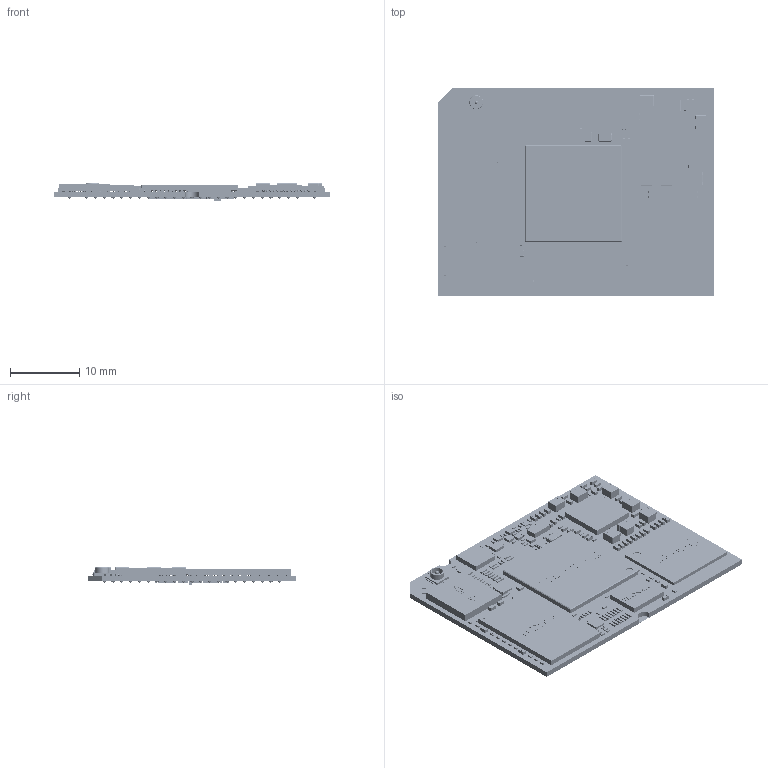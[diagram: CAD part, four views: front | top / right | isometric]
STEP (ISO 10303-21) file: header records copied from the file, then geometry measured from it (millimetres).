
FILE_DESCRIPTION(/* description */ ('PCB Design'),/* implementation_level */ '2;1');
FILE_NAME(/* name */ 'BRD_736-100-R01_2025-03-25',/* time_stamp */ '2025-03-25T11:05:06+01:00',/* author */ (''),/* organization */ (''),/* preprocessor_version */ 'ST-DEVELOPER v16',/* originating_system */ 'allegro_22.1S008',/* authorisation */ '');
FILE_SCHEMA (('AUTOMOTIVE_DESIGN { 1 0 10303 214 3 1 1 }'));
Products named in the file (142): BRD_736-100-R01_2025-03-25; 2025-03-26-06-52_BOARD_OUTLINE; 2025-03-26-06-52_EXTERNAL COPPER; 2025-03-26-06-52_TOP; PADS_2025-03-26-06-52_TOP; CIRCLE_2501; CIRCLE_3001; CIRCLE_2301; SHAPE_SHAPE_SYMBOL_X2SON_PAD12451; SHAPE_SHAPE_SYMBOL_X2SON_PAD1245_MIRROR1; SHAPE_SHAPE_SYMBOL_X2SON_PAD31; CIRCLE_3201; RECT_4550X45501; RECT_730X1801; RECT_1000X11001; RECT_2200X11001; CIRCLE_2541; RECT_1200X8501; RECT_320X3201; RECT_1500X8001; RECT_1800X8001; RECT_650X6001; RECT_730X5801; RECT_600X2001; RECT_1600X2001; RECT_450X2001; RECT_800X5001; RECT_1100X6001; RECT_4400X35001; RECT_790X2701; RECT_2700X27001; RECT_500X2501; RECT_1000X10001; TRACES_2025-03-26-06-52_TOP; SHAPES_2025-03-26-06-52_TOP; SHAPE_1_N17404376; SHAPE_2_N17404318; SHAPE_3_N17204358; SHAPE_4_N17204210; SHAPE_5_N17204860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
Assembly tree (4112 placements, depth 6):
  BRD_736-100-R01_2025-03-25
    2025-03-26-06-52_BOARD_OUTLINE
    2025-03-26-06-52_EXTERNAL COPPER
      2025-03-26-06-52_TOP
        PADS_2025-03-26-06-52_TOP
          CIRCLE_2501  x1286
          CIRCLE_3001  x200
          CIRCLE_2301  x20
          SHAPE_SHAPE_SYMBOL_X2SON_PAD12451  x2
          SHAPE_SHAPE_SYMBOL_X2SON_PAD1245_MIRROR1  x2
          SHAPE_SHAPE_SYMBOL_X2SON_PAD31
          CIRCLE_3201  x424
          RECT_4550X45501
          RECT_730X1801  x56
          RECT_1000X11001
          RECT_2200X11001  x2
          CIRCLE_2541  x153
          RECT_1200X8501  x2
          RECT_320X3201  x306
          RECT_1500X8001  x2
          RECT_1800X8001  x14
          RECT_650X6001  x98
          RECT_730X5801  x4
          RECT_600X2001  x4
          RECT_1600X2001
          RECT_450X2001  x30
          RECT_800X5001  x8
          RECT_1100X6001  x8
          RECT_4400X35001
          RECT_790X2701  x24
          RECT_2700X27001
          RECT_500X2501  x60
          RECT_1000X10001  x12
        TRACES_2025-03-26-06-52_TOP
        SHAPES_2025-03-26-06-52_TOP
          SHAPE_1_N17404376
          SHAPE_2_N17404318
          SHAPE_3_N17204358
          SHAPE_4_N17204210
          SHAPE_5_N17204860
          SHAPE_6_SR_PVSS_GND
          SHAPE_7_VDD_EMMC
          SHAPE_8_N17204502
          SHAPE_9_N17204734
          SHAPE_10_N17204086
          SHAPE_11_N17205006
          SHAPE_12_VDDIO
          SHAPE_13_VDDCORE
          SHAPE_14_1V8
          SHAPE_15_VDDGPU
          SHAPE_16_VDD2_DDR
          SHAPE_17_VDDCPU
          SHAPE_18_3V3
          SHAPE_19_3V3
      2025-03-26-06-52_BOTTOM
        PADS_2025-03-26-06-52_BOTTOM
          CIRCLE_25010  x461
          CIRCLE_60010  x370
          RECT_220X36010  x4
          RECT_320X32010  x156
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Bounding box: 40 x 30 x 2.51 mm (x, y, z)
Volume: 560.4 mm3; surface area: 7661.6 mm2
Topology: 1051 solids, 5321 shells, 24555 faces, 67452 edges, 46477 vertices
Faces by surface type: plane 14531, sphere 4536, cylinder 2956, bspline 2217, extrusion 309, cone 6
Full cylindrical faces by diameter (mm): 0.038 x1, 0.18 x1, 0.258 x1, 0.325 x1
Entity records: 280166 total; most frequent: CARTESIAN_POINT 50669, DIRECTION 38732, ORIENTED_EDGE 28325, AXIS2_PLACEMENT_3D 21422, EDGE_CURVE 17435, VERTEX_POINT 15035, VECTOR 9130, LINE 8821
